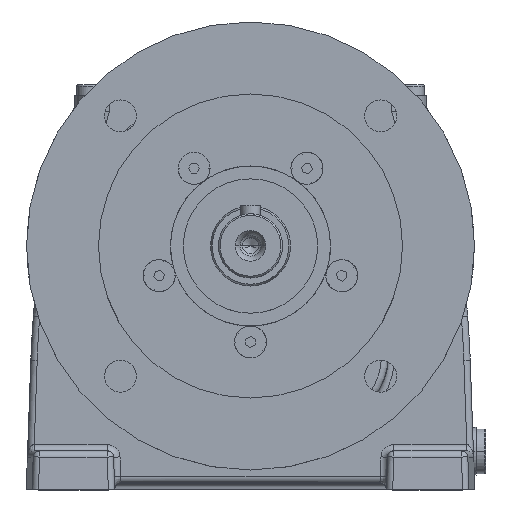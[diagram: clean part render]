
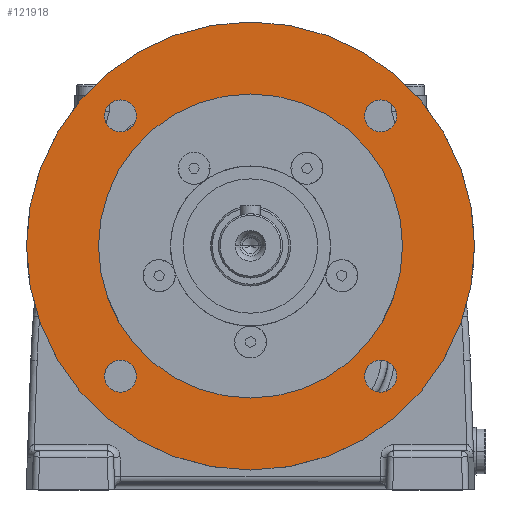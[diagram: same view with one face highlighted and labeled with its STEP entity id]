
A CAD part, top view. The second image highlights one B-rep face of the part: STEP entity #121918.
In plain terms, the highlighted planar face has unit normal (0, 0, 1).
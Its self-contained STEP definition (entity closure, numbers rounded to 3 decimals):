
#82507 = CARTESIAN_POINT ( 'NONE',  ( 45.659, 40.659, -3. ) ) ;
#82508 = DIRECTION ( 'NONE',  ( 1., 0., 0. ) ) ;
#82509 = DIRECTION ( 'NONE',  ( 0., 0., 1. ) ) ;
#82510 = CARTESIAN_POINT ( 'NONE',  ( 40.659, 40.659, -3. ) ) ;
#82511 = AXIS2_PLACEMENT_3D ( 'NONE', #82510, #82509, #82508 ) ;
#82512 = CIRCLE ( 'NONE', #82511, 5. ) ;
#82513 = CARTESIAN_POINT ( 'NONE',  ( 35.659, 40.659, -3. ) ) ;
#82518 = CARTESIAN_POINT ( 'NONE',  ( -35.659, -40.659, -3. ) ) ;
#82519 = DIRECTION ( 'NONE',  ( 1., 0., 0. ) ) ;
#82520 = DIRECTION ( 'NONE',  ( 0., 0., 1. ) ) ;
#82521 = CARTESIAN_POINT ( 'NONE',  ( -40.659, -40.659, -3. ) ) ;
#82522 = AXIS2_PLACEMENT_3D ( 'NONE', #82521, #82520, #82519 ) ;
#82523 = CIRCLE ( 'NONE', #82522, 5. ) ;
#82524 = CARTESIAN_POINT ( 'NONE',  ( -45.659, -40.659, -3. ) ) ;
#82549 = CARTESIAN_POINT ( 'NONE',  ( -35.659, 40.659, -3. ) ) ;
#82550 = CARTESIAN_POINT ( 'NONE',  ( -45.659, 40.659, -3. ) ) ;
#82612 = CARTESIAN_POINT ( 'NONE',  ( 70., 0., -3. ) ) ;
#82613 = DIRECTION ( 'NONE',  ( 1., 0., 0. ) ) ;
#82614 = DIRECTION ( 'NONE',  ( 0., 0., 1. ) ) ;
#82615 = CARTESIAN_POINT ( 'NONE',  ( 0., 0., -3. ) ) ;
#82616 = AXIS2_PLACEMENT_3D ( 'NONE', #82615, #82614, #82613 ) ;
#82617 = CIRCLE ( 'NONE', #82616, 70. ) ;
#82618 = CARTESIAN_POINT ( 'NONE',  ( -70., 0., -3. ) ) ;
#82640 = DIRECTION ( 'NONE',  ( 1., 0., 0. ) ) ;
#82641 = DIRECTION ( 'NONE',  ( 0., 0., 1. ) ) ;
#82642 = CARTESIAN_POINT ( 'NONE',  ( -40.659, 40.659, -3. ) ) ;
#82643 = AXIS2_PLACEMENT_3D ( 'NONE', #82642, #82641, #82640 ) ;
#82644 = CIRCLE ( 'NONE', #82643, 5. ) ;
#82645 = CARTESIAN_POINT ( 'NONE',  ( 45.659, -40.659, -3. ) ) ;
#82646 = DIRECTION ( 'NONE',  ( 1., 0., 0. ) ) ;
#82647 = DIRECTION ( 'NONE',  ( 0., 0., 1. ) ) ;
#82648 = CARTESIAN_POINT ( 'NONE',  ( 40.659, -40.659, -3. ) ) ;
#82649 = AXIS2_PLACEMENT_3D ( 'NONE', #82648, #82647, #82646 ) ;
#82650 = CIRCLE ( 'NONE', #82649, 5. ) ;
#82651 = CARTESIAN_POINT ( 'NONE',  ( 35.659, -40.659, -3. ) ) ;
#82768 = DIRECTION ( 'NONE',  ( 0., 0., 1. ) ) ;
#82769 = CARTESIAN_POINT ( 'NONE',  ( 0., 0., -3. ) ) ;
#82770 = AXIS2_PLACEMENT_3D ( 'NONE', #82769, #82768, #82831 ) ;
#82771 = CIRCLE ( 'NONE', #82770, 70. ) ;
#82783 = CARTESIAN_POINT ( 'NONE',  ( -47.5, 0., -3. ) ) ;
#82784 = CARTESIAN_POINT ( 'NONE',  ( 47.5, 0., -3. ) ) ;
#82785 = DIRECTION ( 'NONE',  ( 1., 0., 0. ) ) ;
#82786 = DIRECTION ( 'NONE',  ( 0., 0., 1. ) ) ;
#82787 = AXIS2_PLACEMENT_3D ( 'NONE', #82793, #82786, #82785 ) ;
#82788 = CIRCLE ( 'NONE', #82787, 47.5 ) ;
#82793 = CARTESIAN_POINT ( 'NONE',  ( 0., 0., -3. ) ) ;
#82809 = FACE_BOUND ( 'NONE', #121912, .T. ) ;
#82810 = FACE_BOUND ( 'NONE', #121908, .T. ) ;
#82811 = FACE_OUTER_BOUND ( 'NONE', #121982, .T. ) ;
#82812 = FACE_BOUND ( 'NONE', #121927, .T. ) ;
#82813 = FACE_BOUND ( 'NONE', #121923, .T. ) ;
#82814 = FACE_BOUND ( 'NONE', #121919, .T. ) ;
#82821 = DIRECTION ( 'NONE',  ( 1., 0., 0. ) ) ;
#82822 = DIRECTION ( 'NONE',  ( 0., 0., 1. ) ) ;
#82823 = CARTESIAN_POINT ( 'NONE',  ( 40.659, -40.659, -3. ) ) ;
#82824 = AXIS2_PLACEMENT_3D ( 'NONE', #82823, #82822, #82821 ) ;
#82825 = CIRCLE ( 'NONE', #82824, 5. ) ;
#82826 = DIRECTION ( 'NONE',  ( 1., 0., 0. ) ) ;
#82827 = DIRECTION ( 'NONE',  ( 0., 0., 1. ) ) ;
#82828 = CARTESIAN_POINT ( 'NONE',  ( 0., 0., -3. ) ) ;
#82829 = AXIS2_PLACEMENT_3D ( 'NONE', #82828, #82827, #82826 ) ;
#82830 = CIRCLE ( 'NONE', #82829, 47.5 ) ;
#82831 = DIRECTION ( 'NONE',  ( 1., 0., 0. ) ) ;
#82842 = DIRECTION ( 'NONE',  ( 1., 0., 0. ) ) ;
#82843 = DIRECTION ( 'NONE',  ( 0., 0., 1. ) ) ;
#82844 = CARTESIAN_POINT ( 'NONE',  ( -40.659, 40.659, -3. ) ) ;
#82845 = AXIS2_PLACEMENT_3D ( 'NONE', #82844, #82843, #82842 ) ;
#82846 = CIRCLE ( 'NONE', #82845, 5. ) ;
#82847 = DIRECTION ( 'NONE',  ( 1., 0., 0. ) ) ;
#82848 = DIRECTION ( 'NONE',  ( 0., 0., 1. ) ) ;
#82849 = CARTESIAN_POINT ( 'NONE',  ( 40.659, 40.659, -3. ) ) ;
#82850 = AXIS2_PLACEMENT_3D ( 'NONE', #82849, #82848, #82847 ) ;
#82851 = CIRCLE ( 'NONE', #82850, 5. ) ;
#82852 = DIRECTION ( 'NONE',  ( -1., 0., 0. ) ) ;
#82853 = DIRECTION ( 'NONE',  ( 0., 0., -1. ) ) ;
#82854 = CARTESIAN_POINT ( 'NONE',  ( 0., 47.5, -3. ) ) ;
#82855 = AXIS2_PLACEMENT_3D ( 'NONE', #82854, #82853, #82852 ) ;
#82856 = PLANE ( 'NONE',  #82855 ) ;
#82940 = DIRECTION ( 'NONE',  ( 1., 0., 0. ) ) ;
#82941 = DIRECTION ( 'NONE',  ( 0., 0., 1. ) ) ;
#82942 = CARTESIAN_POINT ( 'NONE',  ( -40.659, -40.659, -3. ) ) ;
#82943 = AXIS2_PLACEMENT_3D ( 'NONE', #82942, #82941, #82940 ) ;
#82944 = CIRCLE ( 'NONE', #82943, 5. ) ;
#121778 = VERTEX_POINT ( 'NONE', #82524 ) ;
#121780 = EDGE_CURVE ( 'NONE', #121778, #121781, #82523, .T. ) ;
#121781 = VERTEX_POINT ( 'NONE', #82518 ) ;
#121783 = VERTEX_POINT ( 'NONE', #82513 ) ;
#121785 = EDGE_CURVE ( 'NONE', #121783, #121786, #82512, .T. ) ;
#121786 = VERTEX_POINT ( 'NONE', #82507 ) ;
#121797 = VERTEX_POINT ( 'NONE', #82550 ) ;
#121798 = VERTEX_POINT ( 'NONE', #82549 ) ;
#121833 = VERTEX_POINT ( 'NONE', #82618 ) ;
#121835 = EDGE_CURVE ( 'NONE', #121836, #121833, #82617, .T. ) ;
#121836 = VERTEX_POINT ( 'NONE', #82612 ) ;
#121848 = VERTEX_POINT ( 'NONE', #82651 ) ;
#121850 = EDGE_CURVE ( 'NONE', #121848, #121851, #82650, .T. ) ;
#121851 = VERTEX_POINT ( 'NONE', #82645 ) ;
#121853 = EDGE_CURVE ( 'NONE', #121797, #121798, #82644, .T. ) ;
#121895 = EDGE_CURVE ( 'NONE', #121896, #121897, #82788, .T. ) ;
#121896 = VERTEX_POINT ( 'NONE', #82784 ) ;
#121897 = VERTEX_POINT ( 'NONE', #82783 ) ;
#121905 = ORIENTED_EDGE ( 'NONE', *, *, #121835, .T. ) ;
#121906 = ORIENTED_EDGE ( 'NONE', *, *, #121907, .T. ) ;
#121907 = EDGE_CURVE ( 'NONE', #121833, #121836, #82771, .T. ) ;
#121908 = EDGE_LOOP ( 'NONE', ( #121909, #121910 ) ) ;
#121909 = ORIENTED_EDGE ( 'NONE', *, *, #121895, .F. ) ;
#121910 = ORIENTED_EDGE ( 'NONE', *, *, #121911, .F. ) ;
#121911 = EDGE_CURVE ( 'NONE', #121897, #121896, #82830, .T. ) ;
#121912 = EDGE_LOOP ( 'NONE', ( #121913, #121915 ) ) ;
#121913 = ORIENTED_EDGE ( 'NONE', *, *, #121914, .F. ) ;
#121914 = EDGE_CURVE ( 'NONE', #121851, #121848, #82825, .T. ) ;
#121915 = ORIENTED_EDGE ( 'NONE', *, *, #121850, .F. ) ;
#121918 = ADVANCED_FACE ( 'NONE', ( #82814, #82813, #82812, #82811, #82810, #82809 ), #82856, .F. ) ;
#121919 = EDGE_LOOP ( 'NONE', ( #121920, #121922 ) ) ;
#121920 = ORIENTED_EDGE ( 'NONE', *, *, #121921, .F. ) ;
#121921 = EDGE_CURVE ( 'NONE', #121786, #121783, #82851, .T. ) ;
#121922 = ORIENTED_EDGE ( 'NONE', *, *, #121785, .F. ) ;
#121923 = EDGE_LOOP ( 'NONE', ( #121924, #121926 ) ) ;
#121924 = ORIENTED_EDGE ( 'NONE', *, *, #121925, .F. ) ;
#121925 = EDGE_CURVE ( 'NONE', #121798, #121797, #82846, .T. ) ;
#121926 = ORIENTED_EDGE ( 'NONE', *, *, #121853, .F. ) ;
#121927 = EDGE_LOOP ( 'NONE', ( #121928, #121981 ) ) ;
#121928 = ORIENTED_EDGE ( 'NONE', *, *, #121980, .F. ) ;
#121980 = EDGE_CURVE ( 'NONE', #121781, #121778, #82944, .T. ) ;
#121981 = ORIENTED_EDGE ( 'NONE', *, *, #121780, .F. ) ;
#121982 = EDGE_LOOP ( 'NONE', ( #121905, #121906 ) ) ;
